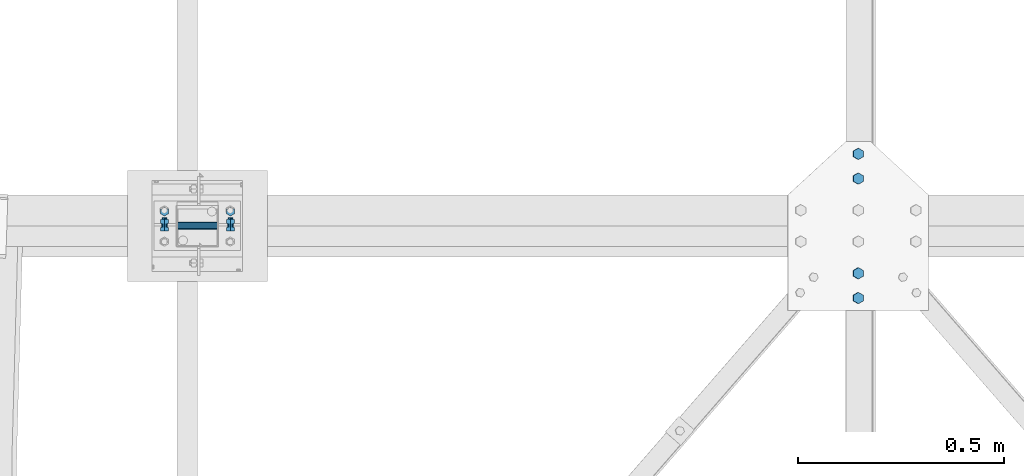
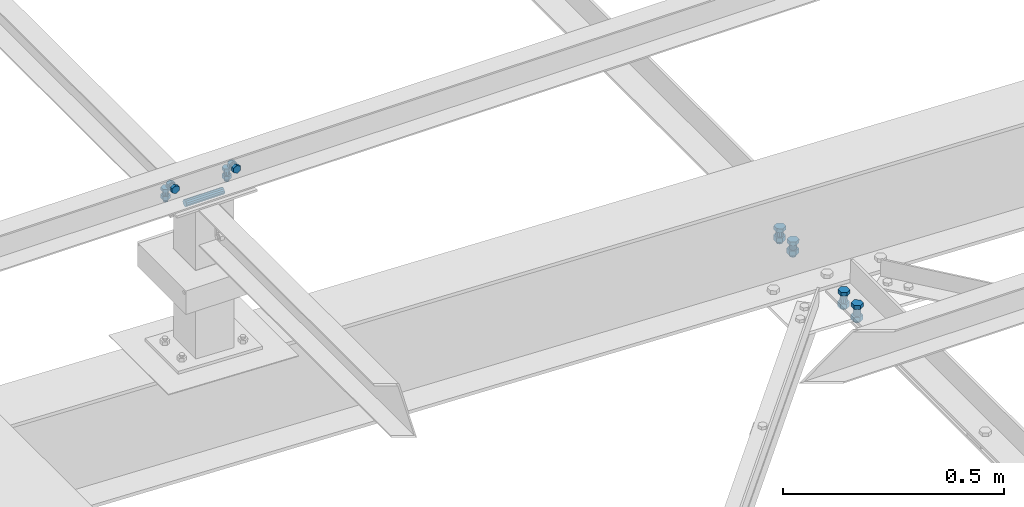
# One storey, part 170 of 3134: 5 mechanical fasteners, 3 elements without a shape of their own.
"""IFC2X3 building model written with IfcOpenShell, lengths in millimetres."""

from ifc_helpers import new_model, si_unit, frame, origin_with_axes, place, context, subcontext, project, spatial, faceted_brep, source, transform, mapped, material, type_object, element, aggregate, save


model = new_model("IFC2X3")

# Units and contexts
model_context = context("Model", 3, precision=1e-05, world=origin_with_axes())
body_context = subcontext(model_context, "Body", "Model", "MODEL_VIEW")
ifc_project = project(units=[si_unit("LENGTHUNIT", "METRE", prefix="MILLI"), si_unit("AREAUNIT", "SQUARE_METRE"), si_unit("VOLUMEUNIT", "CUBIC_METRE"), si_unit("MASSUNIT", "GRAM", prefix="KILO"), si_unit("TIMEUNIT", "SECOND"), si_unit("PLANEANGLEUNIT", "RADIAN"), si_unit("SOLIDANGLEUNIT", "STERADIAN"), si_unit("THERMODYNAMICTEMPERATUREUNIT", "DEGREE_CELSIUS"), si_unit("LUMINOUSINTENSITYUNIT", "LUMEN")], contexts=[model_context])

# Site, building, storey
site_placement = place(None, origin_with_axes())
site = spatial("IfcSite", under=ifc_project, at=site_placement, CompositionType="ELEMENT")
building_placement = place(site_placement, origin_with_axes())
building = spatial("IfcBuilding", under=site, at=building_placement, Name="Undefined", CompositionType="ELEMENT")
storey_placement = place(building_placement, origin_with_axes())
storey = spatial("IfcBuildingStorey", under=building, at=storey_placement, Name="Undefined", CompositionType="ELEMENT", Elevation=0.0)

# Assembly, mechanical fastener
assembly_1_placement = place(storey_placement, origin_with_axes())
assembly_1 = element("IfcElementAssembly", 1, at=assembly_1_placement, inside=storey, AssemblyPlace="NOTDEFINED", PredefinedType="RIGID_FRAME")
ifc_material = material(Name="8.8")
mechanical_fastener_type = type_object("IfcMechanicalFastenerType", Name="Bolt assembly")
shared_shape_1 = source(origin_with_axes(), body_context, "Body", "Brep", [
    faceted_brep([(10.9696551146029, -14.0, 0.0), (5.48482755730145, -14.0, 9.5), (-5.48482755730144, -14.0, 9.5), (-10.9696551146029, -14.0, 1.34339530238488e-15), (-5.48482755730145, -14.0, -9.5), (5.48482755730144, -14.0, -9.50000000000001), (5.48482755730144, -6.0, -9.50000000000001), (-5.48482755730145, -6.0, -9.5), (-10.9696551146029, -6.0, 1.34339530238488e-15), (-5.48482755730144, -6.0, 9.5), (5.48482755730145, -6.0, 9.5), (10.9696551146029, -6.0, 0.0), (6.0, -6.0, 0.0), (5.19615242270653, -6.0, 3.00000000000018), (2.99999999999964, -6.0, 5.19615242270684), (-6.21801588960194e-13, -6.0, 6.0), (-3.00000000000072, -6.0, 5.19615242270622), (-5.19615242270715, -6.0, 2.9999999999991), (-6.0, -6.0, -1.24360317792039e-12), (-5.19615242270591, -6.0, -3.00000000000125), (-2.99999999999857, -6.0, -5.19615242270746), (1.85874342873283e-12, -6.0, -6.0), (3.00000000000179, -6.0, -5.1961524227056), (5.19615242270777, -6.0, -2.99999999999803), (5.19615242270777, 24.0, -2.99999999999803), (3.00000000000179, 24.0, -5.1961524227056), (1.85874342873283e-12, 24.0, -6.0), (-2.99999999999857, 24.0, -5.19615242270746), (-5.19615242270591, 24.0, -3.00000000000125), (-6.0, 24.0, -1.24360317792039e-12), (-5.19615242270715, 24.0, 2.9999999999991), (-3.00000000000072, 24.0, 5.19615242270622), (-6.21801588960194e-13, 24.0, 6.0), (2.99999999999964, 24.0, 5.19615242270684), (5.19615242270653, 24.0, 3.00000000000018), (6.0, 24.0, 0.0), (10.9696551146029, 6.00000000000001, 0.0), (5.48482755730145, 6.00000000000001, 9.5), (-5.48482755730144, 6.00000000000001, 9.5), (-10.9696551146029, 6.00000000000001, 1.34339530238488e-15), (-5.48482755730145, 6.00000000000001, -9.5), (5.48482755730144, 6.00000000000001, -9.50000000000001), (5.48482755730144, 16.0, -9.50000000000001), (-5.48482755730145, 16.0, -9.5), (-10.9696551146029, 16.0, 1.34339530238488e-15), (-5.48482755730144, 16.0, 9.5), (5.48482755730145, 16.0, 9.5), (10.9696551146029, 16.0, 0.0)], [[[0, 1, 2, 3, 4, 5]], [[6, 7, 8, 9, 10, 11]], [[0, 11, 10, 1]], [[1, 10, 9, 2]], [[2, 9, 8, 3]], [[3, 8, 7, 4]], [[4, 7, 6, 5]], [[5, 6, 11, 0]], [[12, 13, 14, 15, 16, 17, 18, 19, 20, 21, 22, 23]], [[24, 25, 26, 27, 28, 29, 30, 31, 32, 33, 34, 35]], [[12, 35, 34, 13]], [[13, 34, 33, 14]], [[14, 33, 32, 15]], [[15, 32, 31, 16]], [[16, 31, 30, 17]], [[17, 30, 29, 18]], [[18, 29, 28, 19]], [[19, 28, 27, 20]], [[20, 27, 26, 21]], [[21, 26, 25, 22]], [[22, 25, 24, 23]], [[23, 24, 35, 12]], [[36, 37, 38, 39, 40, 41]], [[42, 43, 44, 45, 46, 47]], [[36, 47, 46, 37]], [[37, 46, 45, 38]], [[38, 45, 44, 39]], [[39, 44, 43, 40]], [[40, 43, 42, 41]], [[41, 42, 47, 36]]]),
    faceted_brep([(7.0, -0.1, 0.0), (6.06217782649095, -0.1, 3.50000000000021), (3.49999999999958, -0.1, 6.06217782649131), (-7.25435187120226e-13, -0.1, 7.0), (-3.50000000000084, -0.1, 6.06217782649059), (-6.06217782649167, -0.1, 3.49999999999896), (-7.0, -0.1, -1.45087037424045e-12), (-6.06217782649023, -0.1, -3.50000000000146), (-3.49999999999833, -0.1, -6.06217782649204), (2.1685340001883e-12, -0.1, -7.0), (3.50000000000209, -0.1, -6.06217782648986), (6.0621778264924, -0.1, -3.4999999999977), (6.0621778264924, 6.00000000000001, -3.4999999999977), (3.50000000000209, 6.00000000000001, -6.06217782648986), (2.1685340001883e-12, 6.00000000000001, -7.0), (-3.49999999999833, 6.00000000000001, -6.06217782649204), (-6.06217782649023, 6.00000000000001, -3.50000000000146), (-7.0, 6.00000000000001, -1.45087037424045e-12), (-6.06217782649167, 6.00000000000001, 3.49999999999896), (-3.50000000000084, 6.00000000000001, 6.06217782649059), (-7.25435187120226e-13, 6.00000000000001, 7.0), (3.49999999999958, 6.00000000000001, 6.06217782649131), (6.06217782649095, 6.00000000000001, 3.50000000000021), (7.0, 6.00000000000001, 0.0), (7.0, -5.9, 0.0), (6.06217782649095, -5.9, 3.50000000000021), (3.49999999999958, -5.9, 6.06217782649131), (-7.25435187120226e-13, -5.9, 7.0), (-3.50000000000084, -5.9, 6.06217782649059), (-6.06217782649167, -5.9, 3.49999999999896), (-7.0, -5.9, -1.45087037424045e-12), (-6.06217782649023, -5.9, -3.50000000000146), (-3.49999999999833, -5.9, -6.06217782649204), (2.1685340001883e-12, -5.9, -7.0), (3.50000000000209, -5.9, -6.06217782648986), (6.0621778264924, -5.9, -3.4999999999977), (6.0621778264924, 0.0999999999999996, -3.4999999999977), (3.50000000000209, 0.0999999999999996, -6.06217782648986), (2.1685340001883e-12, 0.0999999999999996, -7.0), (-3.49999999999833, 0.0999999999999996, -6.06217782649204), (-6.06217782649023, 0.0999999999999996, -3.50000000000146), (-7.0, 0.0999999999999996, -1.45087037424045e-12), (-6.06217782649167, 0.0999999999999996, 3.49999999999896), (-3.50000000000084, 0.0999999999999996, 6.06217782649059), (-7.25435187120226e-13, 0.0999999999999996, 7.0), (3.49999999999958, 0.0999999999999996, 6.06217782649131), (6.06217782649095, 0.0999999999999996, 3.50000000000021), (7.0, 0.0999999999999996, 0.0)], [[[0, 1, 2, 3, 4, 5, 6, 7, 8, 9, 10, 11]], [[12, 13, 14, 15, 16, 17, 18, 19, 20, 21, 22, 23]], [[0, 23, 22, 1]], [[1, 22, 21, 2]], [[2, 21, 20, 3]], [[3, 20, 19, 4]], [[4, 19, 18, 5]], [[5, 18, 17, 6]], [[6, 17, 16, 7]], [[7, 16, 15, 8]], [[8, 15, 14, 9]], [[9, 14, 13, 10]], [[10, 13, 12, 11]], [[11, 12, 23, 0]], [[24, 25, 26, 27, 28, 29, 30, 31, 32, 33, 34, 35]], [[36, 37, 38, 39, 40, 41, 42, 43, 44, 45, 46, 47]], [[24, 47, 46, 25]], [[25, 46, 45, 26]], [[26, 45, 44, 27]], [[27, 44, 43, 28]], [[28, 43, 42, 29]], [[29, 42, 41, 30]], [[30, 41, 40, 31]], [[31, 40, 39, 32]], [[32, 39, 38, 33]], [[33, 38, 37, 34]], [[34, 37, 36, 35]], [[35, 36, 47, 24]]]),
])
mechanical_fastener_1_placement = place(assembly_1_placement, frame((3043.33, 34947.5, 4365.0), z_axis=(1.0, 0.0, 0.0), x_axis=(0.0, -1.0, 0.0)))
mechanical_fastener_1 = element("IfcMechanicalFastener", 2, at=mechanical_fastener_1_placement, type_object=mechanical_fastener_type, material=ifc_material, Name="Bolt assembly", NominalDiameter=12.0, NominalLength=30.0, context=body_context, shape_type="MappedRepresentation", body=[
    mapped(shared_shape_1, transform((0.0, -5.32963895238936e-10, -79.9999999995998))),
    mapped(shared_shape_1, transform((0.0, 5.3114490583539e-10, 79.9999999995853))),
])

# Assembly, mechanical fasteners
assembly_2_placement = place(storey_placement, origin_with_axes())
assembly_2 = element("IfcElementAssembly", 3, at=assembly_2_placement, inside=storey, Name="PL8", AssemblyPlace="NOTDEFINED", PredefinedType="RIGID_FRAME")
shared_shape_2 = source(origin_with_axes(), body_context, "Body", "Brep", [
    faceted_brep([(13.856406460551, -21.0000017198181, 0.0), (6.92820323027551, -21.0000017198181, 12.0), (-6.92820323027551, -21.0000017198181, 12.0), (-13.856406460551, -21.0000017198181, 1.69692038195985e-15), (-6.92820323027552, -21.0000017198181, -12.0), (6.9282032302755, -21.0000017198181, -12.0), (6.9282032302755, -11.0000017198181, -12.0), (-6.92820323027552, -11.0000017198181, -12.0), (-13.856406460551, -11.0000017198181, 1.69692038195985e-15), (-6.92820323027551, -11.0000017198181, 12.0), (6.92820323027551, -11.0000017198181, 12.0), (13.856406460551, -11.0000017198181, 0.0), (8.0, -11.0000017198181, 0.0), (6.92820323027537, -11.0000017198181, 4.00000000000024), (3.99999999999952, -11.0000017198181, 6.92820323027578), (-8.29068785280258e-13, -11.0000017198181, 8.0), (-4.00000000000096, -11.0000017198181, 6.92820323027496), (-6.9282032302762, -11.0000017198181, 3.99999999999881), (-8.0, -11.0000017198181, -1.65813757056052e-12), (-6.92820323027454, -11.0000017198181, -4.00000000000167), (-3.99999999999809, -11.0000017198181, -6.92820323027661), (2.47832457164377e-12, -11.0000017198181, -8.0), (4.00000000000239, -11.0000017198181, -6.92820323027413), (6.92820323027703, -11.0000017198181, -3.99999999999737), (6.92820323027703, 29.0, -3.99999999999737), (4.00000000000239, 29.0, -6.92820323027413), (2.47832457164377e-12, 29.0, -8.0), (-3.99999999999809, 29.0, -6.92820323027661), (-6.92820323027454, 29.0, -4.00000000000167), (-8.0, 29.0, -1.65813757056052e-12), (-6.9282032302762, 29.0, 3.99999999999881), (-4.00000000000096, 29.0, 6.92820323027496), (-8.29068785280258e-13, 29.0, 8.0), (3.99999999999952, 29.0, 6.92820323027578), (6.92820323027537, 29.0, 4.00000000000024), (8.0, 29.0, 0.0), (13.856406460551, 10.9999982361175, 0.0), (6.92820323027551, 10.9999982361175, 12.0), (-6.92820323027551, 10.9999982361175, 12.0), (-13.856406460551, 10.9999982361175, 1.69692038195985e-15), (-6.92820323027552, 10.9999982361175, -12.0), (6.9282032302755, 10.9999982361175, -12.0), (6.9282032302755, 23.9999999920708, -12.0), (-6.92820323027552, 23.9999999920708, -12.0), (-13.856406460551, 23.9999999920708, 1.69692038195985e-15), (-6.92820323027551, 23.9999999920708, 12.0), (6.92820323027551, 23.9999999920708, 12.0), (13.856406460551, 23.9999999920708, 0.0)], [[[0, 1, 2, 3, 4, 5]], [[6, 7, 8, 9, 10, 11]], [[0, 11, 10, 1]], [[1, 10, 9, 2]], [[2, 9, 8, 3]], [[3, 8, 7, 4]], [[4, 7, 6, 5]], [[5, 6, 11, 0]], [[12, 13, 14, 15, 16, 17, 18, 19, 20, 21, 22, 23]], [[24, 25, 26, 27, 28, 29, 30, 31, 32, 33, 34, 35]], [[12, 35, 34, 13]], [[13, 34, 33, 14]], [[14, 33, 32, 15]], [[15, 32, 31, 16]], [[16, 31, 30, 17]], [[17, 30, 29, 18]], [[18, 29, 28, 19]], [[19, 28, 27, 20]], [[20, 27, 26, 21]], [[21, 26, 25, 22]], [[22, 25, 24, 23]], [[23, 24, 35, 12]], [[36, 37, 38, 39, 40, 41]], [[42, 43, 44, 45, 46, 47]], [[36, 47, 46, 37]], [[37, 46, 45, 38]], [[38, 45, 44, 39]], [[39, 44, 43, 40]], [[40, 43, 42, 41]], [[41, 42, 47, 36]]]),
    faceted_brep([(9.0, -10.9000017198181, 0.0), (7.79422863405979, -10.9000017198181, 4.50000000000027), (4.49999999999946, -10.9000017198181, 7.79422863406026), (-9.3270238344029e-13, -10.9000017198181, 9.0), (-4.50000000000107, -10.9000017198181, 7.79422863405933), (-7.79422863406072, -10.9000017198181, 4.49999999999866), (-9.0, -10.9000017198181, -1.86540476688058e-12), (-7.79422863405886, -10.9000017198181, -4.50000000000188), (-4.49999999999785, -10.9000017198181, -7.79422863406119), (2.78811514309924e-12, -10.9000017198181, -9.0), (4.50000000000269, -10.9000017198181, -7.7942286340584), (7.79422863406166, -10.9000017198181, -4.49999999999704), (7.79422863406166, -3.9, -4.49999999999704), (4.50000000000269, -3.9, -7.7942286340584), (2.78811514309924e-12, -3.9, -9.0), (-4.49999999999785, -3.9, -7.79422863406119), (-7.79422863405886, -3.9, -4.50000000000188), (-9.0, -3.9, -1.86540476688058e-12), (-7.79422863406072, -3.9, 4.49999999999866), (-4.50000000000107, -3.9, 7.79422863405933), (-9.3270238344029e-13, -3.9, 9.0), (4.49999999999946, -3.9, 7.79422863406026), (7.79422863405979, -3.9, 4.50000000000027), (9.0, -3.9, 0.0), (9.0, -3.99999624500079, 0.0), (7.79422863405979, -3.99999624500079, 4.50000000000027), (4.49999999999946, -3.99999624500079, 7.79422863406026), (-9.3270238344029e-13, -3.99999624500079, 9.0), (-4.50000000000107, -3.99999624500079, 7.79422863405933), (-7.79422863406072, -3.99999624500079, 4.49999999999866), (-9.0, -3.99999624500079, -1.86540476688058e-12), (-7.79422863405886, -3.99999624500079, -4.50000000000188), (-4.49999999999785, -3.99999624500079, -7.79422863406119), (2.78811514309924e-12, -3.99999624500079, -9.0), (4.50000000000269, -3.99999624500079, -7.7942286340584), (7.79422863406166, -3.99999624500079, -4.49999999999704), (7.79422863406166, 4.00000375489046, -4.49999999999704), (4.50000000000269, 4.00000375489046, -7.7942286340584), (2.78811514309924e-12, 4.00000375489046, -9.0), (-4.49999999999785, 4.00000375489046, -7.79422863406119), (-7.79422863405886, 4.00000375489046, -4.50000000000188), (-9.0, 4.00000375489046, -1.86540476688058e-12), (-7.79422863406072, 4.00000375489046, 4.49999999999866), (-4.50000000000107, 4.00000375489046, 7.79422863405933), (-9.3270238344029e-13, 4.00000375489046, 9.0), (4.49999999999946, 4.00000375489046, 7.79422863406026), (7.79422863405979, 4.00000375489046, 4.50000000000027), (9.0, 4.00000375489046, 0.0), (9.0, 3.9, 0.0), (7.79422863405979, 3.9, 4.50000000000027), (4.49999999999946, 3.9, 7.79422863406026), (-9.3270238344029e-13, 3.9, 9.0), (-4.50000000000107, 3.9, 7.79422863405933), (-7.79422863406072, 3.9, 4.49999999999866), (-9.0, 3.9, -1.86540476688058e-12), (-7.79422863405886, 3.9, -4.50000000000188), (-4.49999999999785, 3.9, -7.79422863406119), (2.78811514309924e-12, 3.9, -9.0), (4.50000000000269, 3.9, -7.7942286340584), (7.79422863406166, 3.9, -4.49999999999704), (7.79422863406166, 10.9999982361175, -4.49999999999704), (4.50000000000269, 10.9999982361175, -7.7942286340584), (2.78811514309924e-12, 10.9999982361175, -9.0), (-4.49999999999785, 10.9999982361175, -7.79422863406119), (-7.79422863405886, 10.9999982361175, -4.50000000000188), (-9.0, 10.9999982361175, -1.86540476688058e-12), (-7.79422863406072, 10.9999982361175, 4.49999999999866), (-4.50000000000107, 10.9999982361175, 7.79422863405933), (-9.3270238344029e-13, 10.9999982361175, 9.0), (4.49999999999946, 10.9999982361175, 7.79422863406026), (7.79422863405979, 10.9999982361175, 4.50000000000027), (9.0, 10.9999982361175, 0.0)], [[[0, 1, 2, 3, 4, 5, 6, 7, 8, 9, 10, 11]], [[12, 13, 14, 15, 16, 17, 18, 19, 20, 21, 22, 23]], [[0, 23, 22, 1]], [[1, 22, 21, 2]], [[2, 21, 20, 3]], [[3, 20, 19, 4]], [[4, 19, 18, 5]], [[5, 18, 17, 6]], [[6, 17, 16, 7]], [[7, 16, 15, 8]], [[8, 15, 14, 9]], [[9, 14, 13, 10]], [[10, 13, 12, 11]], [[11, 12, 23, 0]], [[24, 25, 26, 27, 28, 29, 30, 31, 32, 33, 34, 35]], [[36, 37, 38, 39, 40, 41, 42, 43, 44, 45, 46, 47]], [[24, 47, 46, 25]], [[25, 46, 45, 26]], [[26, 45, 44, 27]], [[27, 44, 43, 28]], [[28, 43, 42, 29]], [[29, 42, 41, 30]], [[30, 41, 40, 31]], [[31, 40, 39, 32]], [[32, 39, 38, 33]], [[33, 38, 37, 34]], [[34, 37, 36, 35]], [[35, 36, 47, 24]], [[48, 49, 50, 51, 52, 53, 54, 55, 56, 57, 58, 59]], [[60, 61, 62, 63, 64, 65, 66, 67, 68, 69, 70, 71]], [[48, 71, 70, 49]], [[49, 70, 69, 50]], [[50, 69, 68, 51]], [[51, 68, 67, 52]], [[52, 67, 66, 53]], [[53, 66, 65, 54]], [[54, 65, 64, 55]], [[55, 64, 63, 56]], [[56, 63, 62, 57]], [[57, 62, 61, 58]], [[58, 61, 60, 59]], [[59, 60, 71, 48]]]),
])
mechanical_fastener_2_placement = place(assembly_2_placement, frame((4647.50483524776, 34797.5, 3576.15051900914), z_axis=(0.999388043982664, 0.0, -0.0349791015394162), x_axis=(0.0, -1.0, 0.0)))
mechanical_fastener_2 = element("IfcMechanicalFastener", 4, at=mechanical_fastener_2_placement, type_object=mechanical_fastener_type, material=ifc_material, Name="Bolt assembly", NominalDiameter=16.0, NominalLength=40.0, context=body_context, shape_type="MappedRepresentation", body=[
    mapped(shared_shape_2, transform((0.0, 0.0, 0.0))),
    mapped(shared_shape_2, transform((59.9999999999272, 0.0, 5.40239852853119e-10))),
])
shared_shape_3 = source(origin_with_axes(), body_context, "Body", "Brep", [
    faceted_brep([(13.856406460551, -21.0000017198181, 0.0), (6.92820323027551, -21.0000017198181, 12.0), (-6.92820323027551, -21.0000017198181, 12.0), (-13.856406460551, -21.0000017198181, 1.69692038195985e-15), (-6.92820323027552, -21.0000017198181, -12.0), (6.9282032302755, -21.0000017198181, -12.0), (6.9282032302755, -11.0000017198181, -12.0), (-6.92820323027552, -11.0000017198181, -12.0), (-13.856406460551, -11.0000017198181, 1.69692038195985e-15), (-6.92820323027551, -11.0000017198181, 12.0), (6.92820323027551, -11.0000017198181, 12.0), (13.856406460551, -11.0000017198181, 0.0), (8.0, -11.0000017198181, 0.0), (6.92820323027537, -11.0000017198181, 4.00000000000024), (3.99999999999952, -11.0000017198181, 6.92820323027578), (-8.29068785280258e-13, -11.0000017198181, 8.0), (-4.00000000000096, -11.0000017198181, 6.92820323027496), (-6.9282032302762, -11.0000017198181, 3.99999999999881), (-8.0, -11.0000017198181, -1.65813757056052e-12), (-6.92820323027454, -11.0000017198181, -4.00000000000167), (-3.99999999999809, -11.0000017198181, -6.92820323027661), (2.47832457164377e-12, -11.0000017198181, -8.0), (4.00000000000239, -11.0000017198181, -6.92820323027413), (6.92820323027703, -11.0000017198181, -3.99999999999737), (6.92820323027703, 23.9999999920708, -3.99999999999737), (4.00000000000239, 23.9999999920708, -6.92820323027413), (2.47832457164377e-12, 23.9999999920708, -8.0), (-3.99999999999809, 23.9999999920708, -6.92820323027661), (-6.92820323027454, 23.9999999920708, -4.00000000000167), (-8.0, 23.9999999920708, -1.65813757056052e-12), (-6.9282032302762, 23.9999999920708, 3.99999999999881), (-4.00000000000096, 23.9999999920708, 6.92820323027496), (-8.29068785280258e-13, 23.9999999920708, 8.0), (3.99999999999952, 23.9999999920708, 6.92820323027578), (6.92820323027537, 23.9999999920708, 4.00000000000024), (8.0, 23.9999999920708, 0.0), (13.856406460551, 3.99999999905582, 0.0), (6.92820323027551, 3.99999999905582, 12.0), (-6.92820323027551, 3.99999999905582, 12.0), (-13.856406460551, 3.99999999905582, 1.69692038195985e-15), (-6.92820323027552, 3.99999999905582, -12.0), (6.9282032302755, 3.99999999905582, -12.0), (6.9282032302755, 16.9999999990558, -12.0), (-6.92820323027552, 16.9999999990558, -12.0), (-13.856406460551, 16.9999999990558, 1.69692038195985e-15), (-6.92820323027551, 16.9999999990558, 12.0), (6.92820323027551, 16.9999999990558, 12.0), (13.856406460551, 16.9999999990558, 0.0)], [[[0, 1, 2, 3, 4, 5]], [[6, 7, 8, 9, 10, 11]], [[0, 11, 10, 1]], [[1, 10, 9, 2]], [[2, 9, 8, 3]], [[3, 8, 7, 4]], [[4, 7, 6, 5]], [[5, 6, 11, 0]], [[12, 13, 14, 15, 16, 17, 18, 19, 20, 21, 22, 23]], [[24, 25, 26, 27, 28, 29, 30, 31, 32, 33, 34, 35]], [[12, 35, 34, 13]], [[13, 34, 33, 14]], [[14, 33, 32, 15]], [[15, 32, 31, 16]], [[16, 31, 30, 17]], [[17, 30, 29, 18]], [[18, 29, 28, 19]], [[19, 28, 27, 20]], [[20, 27, 26, 21]], [[21, 26, 25, 22]], [[22, 25, 24, 23]], [[23, 24, 35, 12]], [[36, 37, 38, 39, 40, 41]], [[42, 43, 44, 45, 46, 47]], [[36, 47, 46, 37]], [[37, 46, 45, 38]], [[38, 45, 44, 39]], [[39, 44, 43, 40]], [[40, 43, 42, 41]], [[41, 42, 47, 36]]]),
    faceted_brep([(9.0, -10.9000017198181, 0.0), (7.79422863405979, -10.9000017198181, 4.50000000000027), (4.49999999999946, -10.9000017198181, 7.79422863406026), (-9.3270238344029e-13, -10.9000017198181, 9.0), (-4.50000000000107, -10.9000017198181, 7.79422863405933), (-7.79422863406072, -10.9000017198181, 4.49999999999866), (-9.0, -10.9000017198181, -1.86540476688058e-12), (-7.79422863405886, -10.9000017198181, -4.50000000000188), (-4.49999999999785, -10.9000017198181, -7.79422863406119), (2.78811514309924e-12, -10.9000017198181, -9.0), (4.50000000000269, -10.9000017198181, -7.7942286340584), (7.79422863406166, -10.9000017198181, -4.49999999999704), (7.79422863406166, -3.9, -4.49999999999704), (4.50000000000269, -3.9, -7.7942286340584), (2.78811514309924e-12, -3.9, -9.0), (-4.49999999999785, -3.9, -7.79422863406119), (-7.79422863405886, -3.9, -4.50000000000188), (-9.0, -3.9, -1.86540476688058e-12), (-7.79422863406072, -3.9, 4.49999999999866), (-4.50000000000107, -3.9, 7.79422863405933), (-9.3270238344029e-13, -3.9, 9.0), (4.49999999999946, -3.9, 7.79422863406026), (7.79422863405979, -3.9, 4.50000000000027), (9.0, -3.9, 0.0), (9.0, -4.10000000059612, 0.0), (7.79422863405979, -4.10000000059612, 4.50000000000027), (4.49999999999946, -4.10000000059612, 7.79422863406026), (-9.3270238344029e-13, -4.10000000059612, 9.0), (-4.50000000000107, -4.10000000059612, 7.79422863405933), (-7.79422863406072, -4.10000000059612, 4.49999999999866), (-9.0, -4.10000000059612, -1.86540476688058e-12), (-7.79422863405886, -4.10000000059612, -4.50000000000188), (-4.49999999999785, -4.10000000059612, -7.79422863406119), (2.78811514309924e-12, -4.10000000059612, -9.0), (4.50000000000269, -4.10000000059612, -7.7942286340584), (7.79422863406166, -4.10000000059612, -4.49999999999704), (7.79422863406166, 4.00000375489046, -4.49999999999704), (4.50000000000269, 4.00000375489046, -7.7942286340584), (2.78811514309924e-12, 4.00000375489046, -9.0), (-4.49999999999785, 4.00000375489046, -7.79422863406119), (-7.79422863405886, 4.00000375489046, -4.50000000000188), (-9.0, 4.00000375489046, -1.86540476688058e-12), (-7.79422863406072, 4.00000375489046, 4.49999999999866), (-4.50000000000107, 4.00000375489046, 7.79422863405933), (-9.3270238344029e-13, 4.00000375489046, 9.0), (4.49999999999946, 4.00000375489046, 7.79422863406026), (7.79422863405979, 4.00000375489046, 4.50000000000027), (9.0, 4.00000375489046, 0.0)], [[[0, 1, 2, 3, 4, 5, 6, 7, 8, 9, 10, 11]], [[12, 13, 14, 15, 16, 17, 18, 19, 20, 21, 22, 23]], [[0, 23, 22, 1]], [[1, 22, 21, 2]], [[2, 21, 20, 3]], [[3, 20, 19, 4]], [[4, 19, 18, 5]], [[5, 18, 17, 6]], [[6, 17, 16, 7]], [[7, 16, 15, 8]], [[8, 15, 14, 9]], [[9, 14, 13, 10]], [[10, 13, 12, 11]], [[11, 12, 23, 0]], [[24, 25, 26, 27, 28, 29, 30, 31, 32, 33, 34, 35]], [[36, 37, 38, 39, 40, 41, 42, 43, 44, 45, 46, 47]], [[24, 47, 46, 25]], [[25, 46, 45, 26]], [[26, 45, 44, 27]], [[27, 44, 43, 28]], [[28, 43, 42, 29]], [[29, 42, 41, 30]], [[30, 41, 40, 31]], [[31, 40, 39, 32]], [[32, 39, 38, 33]], [[33, 38, 37, 34]], [[34, 37, 36, 35]], [[35, 36, 47, 24]]]),
])
mechanical_fastener_3_placement = place(assembly_2_placement, frame((4647.50483525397, 35087.5, 3576.15051900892), z_axis=(0.999388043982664, 0.0, -0.0349791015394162), x_axis=(0.0, -1.0, 0.0)))
mechanical_fastener_3 = element("IfcMechanicalFastener", 5, at=mechanical_fastener_3_placement, type_object=mechanical_fastener_type, material=ifc_material, Name="Bolt assembly", NominalDiameter=16.0, NominalLength=35.0, context=body_context, shape_type="MappedRepresentation", body=[
    mapped(shared_shape_3, transform((0.0, 0.0, 0.0))),
    mapped(shared_shape_3, transform((59.9999999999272, 0.0, 5.40239852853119e-10))),
])
aggregate(assembly_2, [mechanical_fastener_2, mechanical_fastener_3])

# Assembly, mechanical fastener
assembly_3_placement = place(storey_placement, origin_with_axes())
assembly_3 = element("IfcElementAssembly", 6, at=assembly_3_placement, inside=storey, AssemblyPlace="NOTDEFINED", PredefinedType="RIGID_FRAME")
shared_shape_4 = source(origin_with_axes(), body_context, "Body", "Brep", [
    faceted_brep([(9.0, -50.0, 0.0), (7.79422863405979, -50.0, 4.50000000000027), (4.49999999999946, -50.0, 7.79422863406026), (-9.3270238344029e-13, -50.0, 9.0), (-4.50000000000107, -50.0, 7.79422863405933), (-7.79422863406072, -50.0, 4.49999999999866), (-9.0, -50.0, -1.86540476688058e-12), (-7.79422863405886, -50.0, -4.50000000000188), (-4.49999999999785, -50.0, -7.79422863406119), (2.78811514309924e-12, -50.0, -9.0), (4.50000000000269, -50.0, -7.7942286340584), (7.79422863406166, -50.0, -4.49999999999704), (7.79422863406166, 50.1, -4.49999999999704), (4.50000000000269, 50.1, -7.7942286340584), (2.78811514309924e-12, 50.1, -9.0), (-4.49999999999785, 50.1, -7.79422863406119), (-7.79422863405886, 50.1, -4.50000000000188), (-9.0, 50.1, -1.86540476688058e-12), (-7.79422863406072, 50.1, 4.49999999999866), (-4.50000000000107, 50.1, 7.79422863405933), (-9.3270238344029e-13, 50.1, 9.0), (4.49999999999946, 50.1, 7.79422863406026), (7.79422863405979, 50.1, 4.50000000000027), (9.0, 50.1, 0.0)], [[[0, 1, 2, 3, 4, 5, 6, 7, 8, 9, 10, 11]], [[12, 13, 14, 15, 16, 17, 18, 19, 20, 21, 22, 23]], [[0, 23, 22, 1]], [[1, 22, 21, 2]], [[2, 21, 20, 3]], [[3, 20, 19, 4]], [[4, 19, 18, 5]], [[5, 18, 17, 6]], [[6, 17, 16, 7]], [[7, 16, 15, 8]], [[8, 15, 14, 9]], [[9, 14, 13, 10]], [[10, 13, 12, 11]], [[11, 12, 23, 0]]]),
])
mechanical_fastener_4_placement = place(assembly_3_placement, frame((3043.33, 34912.5, 4345.0), z_axis=(0.0, 1.0, 0.0), x_axis=(0.0, 0.0, 1.0)))
mechanical_fastener_4 = element("IfcMechanicalFastener", 7, at=mechanical_fastener_4_placement, type_object=mechanical_fastener_type, material=ifc_material, Name="Bolt assembly", NominalDiameter=16.0, NominalLength=100.0, context=body_context, shape_type="MappedRepresentation", body=[
    mapped(shared_shape_4, transform((0.0, 0.0, 0.0))),
])
aggregate(assembly_3, [mechanical_fastener_4])

# Mechanical fastener
shared_shape_5 = source(origin_with_axes(), body_context, "Body", "Brep", [
    faceted_brep([(10.9696551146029, -12.0003169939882, 0.0), (5.48482755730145, -12.0003169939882, 9.5), (-5.48482755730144, -12.0003169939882, 9.5), (-10.9696551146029, -12.0003169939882, 1.34339530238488e-15), (-5.48482755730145, -12.0003169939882, -9.5), (5.48482755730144, -12.0003169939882, -9.50000000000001), (5.48482755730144, -4.00031699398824, -9.50000000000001), (-5.48482755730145, -4.00031699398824, -9.5), (-10.9696551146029, -4.00031699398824, 1.34339530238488e-15), (-5.48482755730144, -4.00031699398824, 9.5), (5.48482755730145, -4.00031699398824, 9.5), (10.9696551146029, -4.00031699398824, 0.0), (6.0, -4.00031699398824, 0.0), (5.19615242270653, -4.00031699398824, 3.00000000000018), (2.99999999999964, -4.00031699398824, 5.19615242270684), (-6.21801588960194e-13, -4.00031699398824, 6.0), (-3.00000000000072, -4.00031699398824, 5.19615242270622), (-5.19615242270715, -4.00031699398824, 2.9999999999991), (-6.0, -4.00031699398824, -1.24360317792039e-12), (-5.19615242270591, -4.00031699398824, -3.00000000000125), (-2.99999999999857, -4.00031699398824, -5.19615242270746), (1.85874342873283e-12, -4.00031699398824, -6.0), (3.00000000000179, -4.00031699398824, -5.1961524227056), (5.19615242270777, -4.00031699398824, -2.99999999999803), (5.19615242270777, 20.9997148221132, -2.99999999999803), (3.00000000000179, 20.9997148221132, -5.1961524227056), (1.85874342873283e-12, 20.9997148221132, -6.0), (-2.99999999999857, 20.9997148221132, -5.19615242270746), (-5.19615242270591, 20.9997148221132, -3.00000000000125), (-6.0, 20.9997148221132, -1.24360317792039e-12), (-5.19615242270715, 20.9997148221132, 2.9999999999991), (-3.00000000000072, 20.9997148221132, 5.19615242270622), (-6.21801588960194e-13, 20.9997148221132, 6.0), (2.99999999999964, 20.9997148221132, 5.19615242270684), (5.19615242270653, 20.9997148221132, 3.00000000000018), (6.0, 20.9997148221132, 0.0), (10.9696551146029, 6.00000000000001, 0.0), (5.48482755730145, 6.00000000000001, 9.5), (-5.48482755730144, 6.00000000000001, 9.5), (-10.9696551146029, 6.00000000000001, 1.34339530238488e-15), (-5.48482755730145, 6.00000000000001, -9.5), (5.48482755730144, 6.00000000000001, -9.50000000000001), (5.48482755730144, 16.0, -9.50000000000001), (-5.48482755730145, 16.0, -9.5), (-10.9696551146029, 16.0, 1.34339530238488e-15), (-5.48482755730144, 16.0, 9.5), (5.48482755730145, 16.0, 9.5), (10.9696551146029, 16.0, 0.0)], [[[0, 1, 2, 3, 4, 5]], [[6, 7, 8, 9, 10, 11]], [[0, 11, 10, 1]], [[1, 10, 9, 2]], [[2, 9, 8, 3]], [[3, 8, 7, 4]], [[4, 7, 6, 5]], [[5, 6, 11, 0]], [[12, 13, 14, 15, 16, 17, 18, 19, 20, 21, 22, 23]], [[24, 25, 26, 27, 28, 29, 30, 31, 32, 33, 34, 35]], [[12, 35, 34, 13]], [[13, 34, 33, 14]], [[14, 33, 32, 15]], [[15, 32, 31, 16]], [[16, 31, 30, 17]], [[17, 30, 29, 18]], [[18, 29, 28, 19]], [[19, 28, 27, 20]], [[20, 27, 26, 21]], [[21, 26, 25, 22]], [[22, 25, 24, 23]], [[23, 24, 35, 12]], [[36, 37, 38, 39, 40, 41]], [[42, 43, 44, 45, 46, 47]], [[36, 47, 46, 37]], [[37, 46, 45, 38]], [[38, 45, 44, 39]], [[39, 44, 43, 40]], [[40, 43, 42, 41]], [[41, 42, 47, 36]]]),
    faceted_brep([(7.0, -3.90031233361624, 0.0), (6.06217782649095, -3.90027629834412, 3.50000000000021), (3.49999999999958, -3.90031233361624, 6.06217782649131), (-7.25435187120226e-13, -3.90027629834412, 7.0), (-3.50000000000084, -3.90027629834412, 6.06217782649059), (-6.06217782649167, -3.90027629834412, 3.49999999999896), (-7.0, -3.90031233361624, -1.45087037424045e-12), (-6.06217782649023, -3.90027629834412, -3.50000000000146), (-3.49999999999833, -3.90027629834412, -6.06217782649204), (2.1685340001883e-12, -3.90027629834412, -7.0), (3.50000000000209, -3.90027629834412, -6.06217782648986), (6.0621778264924, -3.90031233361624, -3.4999999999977), (6.0621778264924, 0.0996830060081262, -3.4999999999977), (3.50000000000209, 0.0996830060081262, -6.06217782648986), (2.1685340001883e-12, 0.0996830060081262, -7.0), (-3.49999999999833, 0.0996830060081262, -6.06217782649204), (-6.06217782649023, 0.0996830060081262, -3.50000000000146), (-7.0, 0.0996830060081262, -1.45087037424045e-12), (-6.06217782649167, 0.0997148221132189, 3.49999999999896), (-3.50000000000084, 0.0997148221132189, 6.06217782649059), (-7.25435187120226e-13, 0.0996830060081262, 7.0), (3.49999999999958, 0.0996830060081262, 6.06217782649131), (6.06217782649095, 0.0996830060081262, 3.50000000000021), (7.0, 0.0997148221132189, 0.0), (7.0, -0.1, 0.0), (6.06217782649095, -0.1, 3.50000000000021), (3.49999999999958, -0.1, 6.06217782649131), (-7.25435187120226e-13, -0.1, 7.0), (-3.50000000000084, -0.1, 6.06217782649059), (-6.06217782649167, -0.1, 3.49999999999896), (-7.0, -0.1, -1.45087037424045e-12), (-6.06217782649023, -0.1, -3.50000000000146), (-3.49999999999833, -0.1, -6.06217782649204), (2.1685340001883e-12, -0.1, -7.0), (3.50000000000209, -0.1, -6.06217782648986), (6.0621778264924, -0.1, -3.4999999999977), (6.0621778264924, 6.00000000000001, -3.4999999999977), (3.50000000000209, 6.00000000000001, -6.06217782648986), (2.1685340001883e-12, 6.00000000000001, -7.0), (-3.49999999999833, 6.00000000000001, -6.06217782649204), (-6.06217782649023, 6.00000000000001, -3.50000000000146), (-7.0, 6.00000000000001, -1.45087037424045e-12), (-6.06217782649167, 6.00000000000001, 3.49999999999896), (-3.50000000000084, 6.00000000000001, 6.06217782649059), (-7.25435187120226e-13, 6.00000000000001, 7.0), (3.49999999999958, 6.00000000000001, 6.06217782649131), (6.06217782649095, 6.00000000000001, 3.50000000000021), (7.0, 6.00000000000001, 0.0)], [[[0, 1, 2, 3, 4, 5, 6, 7, 8, 9, 10, 11]], [[12, 13, 14, 15, 16, 17, 18, 19, 20, 21, 22, 23]], [[0, 23, 22, 1]], [[1, 22, 21, 2]], [[2, 21, 20, 3]], [[3, 20, 19, 4]], [[4, 19, 18, 5]], [[5, 18, 17, 6]], [[6, 17, 16, 7]], [[7, 16, 15, 8]], [[8, 15, 14, 9]], [[9, 14, 13, 10]], [[10, 13, 12, 11]], [[11, 12, 23, 0]], [[24, 25, 26, 27, 28, 29, 30, 31, 32, 33, 34, 35]], [[36, 37, 38, 39, 40, 41, 42, 43, 44, 45, 46, 47]], [[24, 47, 46, 25]], [[25, 46, 45, 26]], [[26, 45, 44, 27]], [[27, 44, 43, 28]], [[28, 43, 42, 29]], [[29, 42, 41, 30]], [[30, 41, 40, 31]], [[31, 40, 39, 32]], [[32, 39, 38, 33]], [[33, 38, 37, 34]], [[34, 37, 36, 35]], [[35, 36, 47, 24]]]),
])
mechanical_fastener_5_placement = place(assembly_1_placement, frame((3043.33, 34912.5, 4400.0), z_axis=(1.0, 0.0, 0.0), x_axis=(0.0, 0.0, -1.0)))
mechanical_fastener_5 = element("IfcMechanicalFastener", 8, at=mechanical_fastener_5_placement, type_object=mechanical_fastener_type, material=ifc_material, Name="Bolt assembly", NominalDiameter=12.0, NominalLength=25.0, context=body_context, shape_type="MappedRepresentation", body=[
    mapped(shared_shape_5, transform((0.0, -5.32963895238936e-10, -79.9999999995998))),
    mapped(shared_shape_5, transform((0.0, 5.3114490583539e-10, 79.9999999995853))),
])

aggregate(assembly_1, [mechanical_fastener_5, mechanical_fastener_1])

save(model, "model.ifc")
